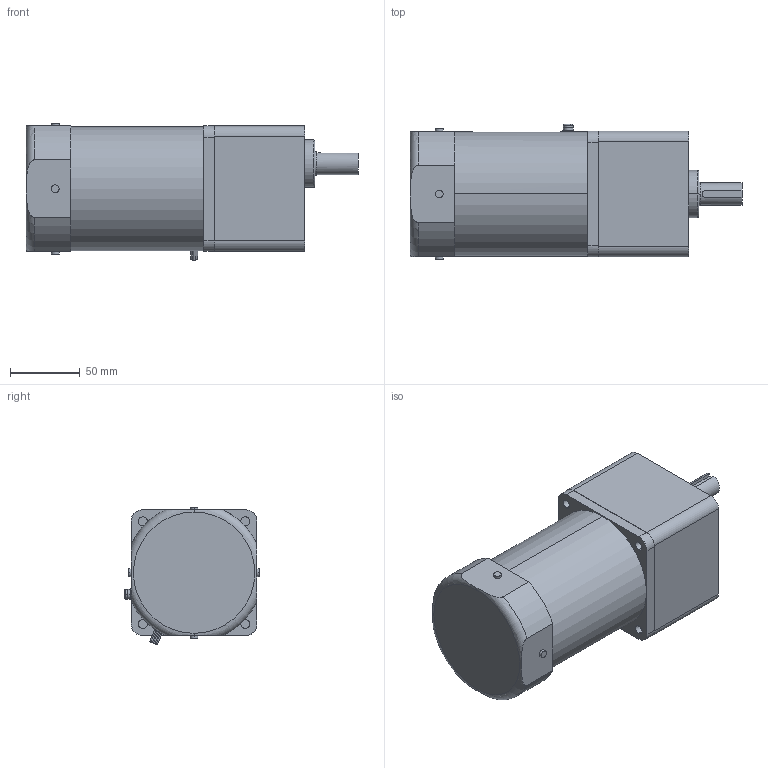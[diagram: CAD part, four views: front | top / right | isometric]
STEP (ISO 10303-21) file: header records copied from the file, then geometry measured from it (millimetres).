
FILE_DESCRIPTION(('starvars output'),'2;1');
FILE_NAME('5RK90GE-AW2U _ 5GE3.6SA.stp','13:54:27 2015/05/11',( 'Thomas Industrial Network Germany GmbH'),( 'Thomas Industrial Network Germany GmbH'),'unknown preprocess','ACIS' ,'unknown authorization');
FILE_SCHEMA(('AUTOMOTIVE_DESIGN_CC2 {UNKNOWN IMPLEMENTATION LEVEL}'));
Length unit declared in the file: millimetre
Products named in the file (1): PRODUCT_ID_566
Bounding box: 238 x 97 x 98.75 mm (x, y, z)
Volume: 1402070.5 mm3; surface area: 89091.7 mm2
Topology: 1 solids, 1 shells, 148 faces, 335 edges, 215 vertices
Faces by surface type: cylinder 74, plane 60, torus 10, cone 4
Entity records: 5136 total; most frequent: CARTESIAN_POINT 890, ORIENTED_EDGE 666, DIRECTION 552, EDGE_CURVE 333, VERTEX_POINT 215, AXIS2_PLACEMENT_3D 205, EDGE_LOOP 176, FACE_BOUND 176
